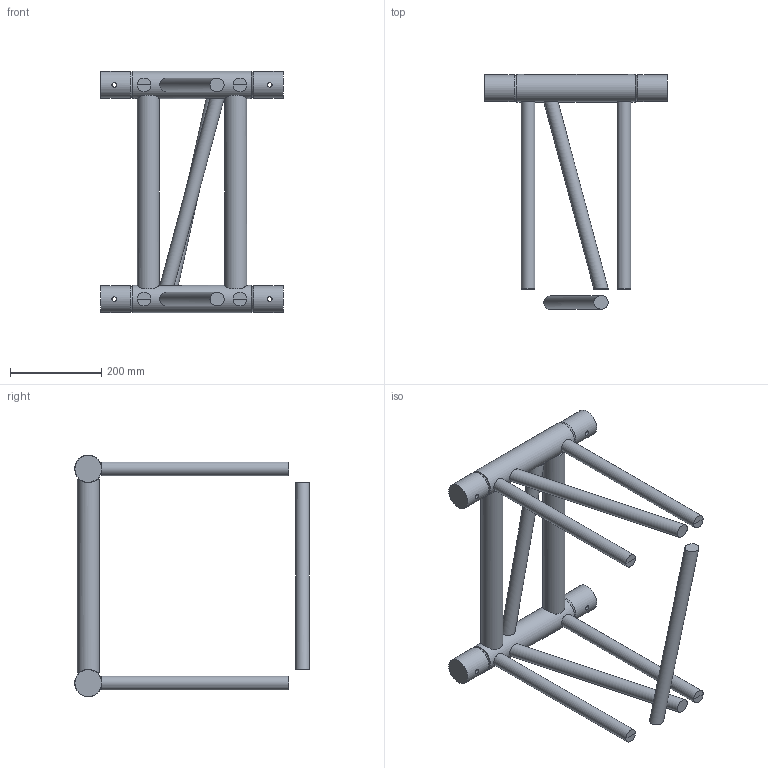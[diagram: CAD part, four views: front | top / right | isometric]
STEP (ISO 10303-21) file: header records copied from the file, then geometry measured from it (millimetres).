
FILE_DESCRIPTION(/* description */ (''),/* implementation_level */ '2;1');
FILE_NAME(/* name */ 'M:\Symbolen_NIEUW\STP\52-er truss\C52T\C52T-L040_111810045.stp',/* time_stamp */ '2017-12-15T15:26:39+01:00',/* author */ ('Kees'),/* organization */ (''),/* preprocessor_version */ 'ST-DEVELOPER v16.13',/* originating_system */ 'Autodesk Inventor 2018',/* authorisation */ '');
FILE_SCHEMA (('AUTOMOTIVE_DESIGN { 1 0 10303 214 3 1 1 }'));
Length unit declared in the file: millimetre
Products named in the file (1): 160021033
Bounding box: 400 x 514.99 x 529.88 mm (x, y, z)
Volume: 6082747.7 mm3; surface area: 616808.8 mm2
Topology: 4 solids, 4 shells, 118 faces, 262 edges, 162 vertices
Faces by surface type: plane 62, cylinder 36, cone 20
Full cylindrical faces by diameter (mm): 10 x4, 30 x8, 48.3 x2, 58.8 x4, 60 x2
Entity records: 4220 total; most frequent: CARTESIAN_POINT 1523, DIRECTION 522, ORIENTED_EDGE 476, EDGE_CURVE 238, AXIS2_PLACEMENT_3D 221, EDGE_LOOP 168, VERTEX_POINT 158, STYLED_ITEM 122
